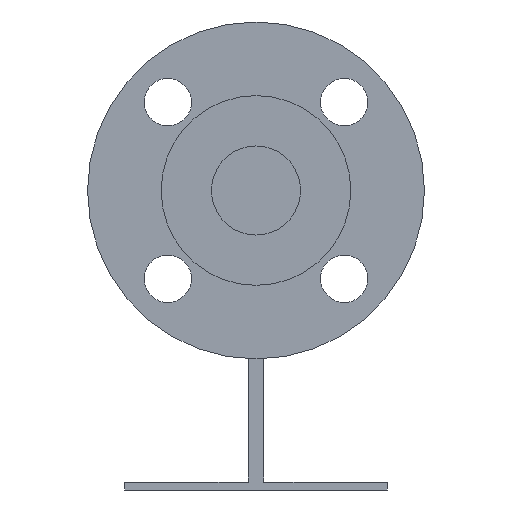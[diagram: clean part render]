
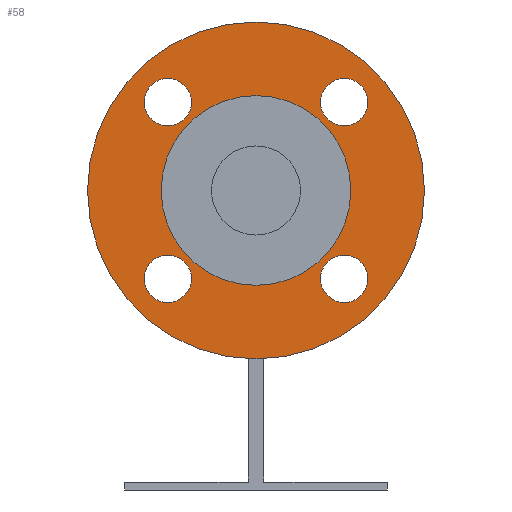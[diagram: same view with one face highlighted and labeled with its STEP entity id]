
A CAD part, left-side view. The second image highlights one B-rep face of the part: STEP entity #58.
In plain terms, the highlighted planar face has unit normal (-1, 0, 0).
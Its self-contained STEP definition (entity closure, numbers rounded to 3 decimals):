
#58=ADVANCED_FACE('',(#319,#320,#321,#322,#323,#324),#318,.F.);
#318=PLANE('',#1036);
#319=FACE_OUTER_BOUND('',#1037,.T.);
#320=FACE_BOUND('',#1038,.T.);
#321=FACE_BOUND('',#1039,.T.);
#322=FACE_BOUND('',#1040,.T.);
#323=FACE_BOUND('',#1041,.T.);
#324=FACE_BOUND('',#1042,.T.);
#1033=CARTESIAN_POINT('',(-337.,-126.913,77.5));
#1034=DIRECTION('',(1.,0.,0.));
#1035=DIRECTION('',(0.,0.,-1.));
#1036=AXIS2_PLACEMENT_3D('',#1033,#1034,#1035);
#1037=EDGE_LOOP('',(#1458,#1459));
#1038=EDGE_LOOP('',(#1460,#1461));
#1039=EDGE_LOOP('',(#1462,#1463));
#1040=EDGE_LOOP('',(#1464,#1465));
#1041=EDGE_LOOP('',(#1466,#1467));
#1042=EDGE_LOOP('',(#1468,#1469));
#1458=ORIENTED_EDGE('',*,*,#1823,.T.);
#1459=ORIENTED_EDGE('',*,*,#1824,.T.);
#1460=ORIENTED_EDGE('',*,*,#1825,.T.);
#1461=ORIENTED_EDGE('',*,*,#1826,.T.);
#1462=ORIENTED_EDGE('',*,*,#1827,.T.);
#1463=ORIENTED_EDGE('',*,*,#1828,.T.);
#1464=ORIENTED_EDGE('',*,*,#1829,.T.);
#1465=ORIENTED_EDGE('',*,*,#1830,.T.);
#1466=ORIENTED_EDGE('',*,*,#1831,.F.);
#1467=ORIENTED_EDGE('',*,*,#1832,.F.);
#1468=ORIENTED_EDGE('',*,*,#1833,.T.);
#1469=ORIENTED_EDGE('',*,*,#1834,.T.);
#1823=EDGE_CURVE('',#2565,#2566,#2567,.T.);
#1824=EDGE_CURVE('',#2566,#2565,#2573,.T.);
#1825=EDGE_CURVE('',#2579,#2580,#2581,.T.);
#1826=EDGE_CURVE('',#2580,#2579,#2587,.T.);
#1827=EDGE_CURVE('',#2593,#2594,#2595,.T.);
#1828=EDGE_CURVE('',#2594,#2593,#2601,.T.);
#1829=EDGE_CURVE('',#2607,#2608,#2609,.T.);
#1830=EDGE_CURVE('',#2608,#2607,#2615,.T.);
#1831=EDGE_CURVE('',#2621,#2622,#2623,.T.);
#1832=EDGE_CURVE('',#2622,#2621,#2629,.T.);
#1833=EDGE_CURVE('',#2635,#2636,#2637,.T.);
#1834=EDGE_CURVE('',#2636,#2635,#2643,.T.);
#2565=VERTEX_POINT('',#3637);
#2566=VERTEX_POINT('',#3638);
#2567=CIRCLE('',#3642,67.5);
#2573=CIRCLE('',#3646,67.5);
#2579=VERTEX_POINT('',#3647);
#2580=VERTEX_POINT('',#3648);
#2581=CIRCLE('',#3652,9.5);
#2587=CIRCLE('',#3656,9.5);
#2593=VERTEX_POINT('',#3657);
#2594=VERTEX_POINT('',#3658);
#2595=CIRCLE('',#3662,9.5);
#2601=CIRCLE('',#3666,9.5);
#2607=VERTEX_POINT('',#3667);
#2608=VERTEX_POINT('',#3668);
#2609=CIRCLE('',#3672,9.5);
#2615=CIRCLE('',#3676,9.5);
#2621=VERTEX_POINT('',#3677);
#2622=VERTEX_POINT('',#3678);
#2623=CIRCLE('',#3682,38.);
#2629=CIRCLE('',#3686,38.);
#2635=VERTEX_POINT('',#3687);
#2636=VERTEX_POINT('',#3688);
#2637=CIRCLE('',#3692,9.5);
#2643=CIRCLE('',#3696,9.5);
#3637=CARTESIAN_POINT('',(-337.,0.,67.5));
#3638=CARTESIAN_POINT('',(-337.,0.,-67.5));
#3639=CARTESIAN_POINT('',(-337.,0.,0.));
#3640=DIRECTION('',(-1.,0.,0.));
#3641=DIRECTION('',(0.,0.,1.));
#3642=AXIS2_PLACEMENT_3D('',#3639,#3640,#3641);
#3643=CARTESIAN_POINT('',(-337.,0.,0.));
#3644=DIRECTION('',(-1.,0.,0.));
#3645=DIRECTION('',(0.,0.,1.));
#3646=AXIS2_PLACEMENT_3D('',#3643,#3644,#3645);
#3647=CARTESIAN_POINT('',(-337.,-35.355,-25.855));
#3648=CARTESIAN_POINT('',(-337.,-35.355,-44.855));
#3649=CARTESIAN_POINT('',(-337.,-35.355,-35.355));
#3650=DIRECTION('',(1.,0.,0.));
#3651=DIRECTION('',(0.,0.,1.));
#3652=AXIS2_PLACEMENT_3D('',#3649,#3650,#3651);
#3653=CARTESIAN_POINT('',(-337.,-35.355,-35.355));
#3654=DIRECTION('',(1.,0.,0.));
#3655=DIRECTION('',(0.,0.,1.));
#3656=AXIS2_PLACEMENT_3D('',#3653,#3654,#3655);
#3657=CARTESIAN_POINT('',(-337.,35.355,-25.855));
#3658=CARTESIAN_POINT('',(-337.,35.355,-44.855));
#3659=CARTESIAN_POINT('',(-337.,35.355,-35.355));
#3660=DIRECTION('',(1.,0.,0.));
#3661=DIRECTION('',(0.,0.,1.));
#3662=AXIS2_PLACEMENT_3D('',#3659,#3660,#3661);
#3663=CARTESIAN_POINT('',(-337.,35.355,-35.355));
#3664=DIRECTION('',(1.,0.,0.));
#3665=DIRECTION('',(0.,0.,1.));
#3666=AXIS2_PLACEMENT_3D('',#3663,#3664,#3665);
#3667=CARTESIAN_POINT('',(-337.,35.355,44.855));
#3668=CARTESIAN_POINT('',(-337.,35.355,25.855));
#3669=CARTESIAN_POINT('',(-337.,35.355,35.355));
#3670=DIRECTION('',(1.,0.,0.));
#3671=DIRECTION('',(0.,0.,1.));
#3672=AXIS2_PLACEMENT_3D('',#3669,#3670,#3671);
#3673=CARTESIAN_POINT('',(-337.,35.355,35.355));
#3674=DIRECTION('',(1.,0.,0.));
#3675=DIRECTION('',(0.,0.,1.));
#3676=AXIS2_PLACEMENT_3D('',#3673,#3674,#3675);
#3677=CARTESIAN_POINT('',(-337.,0.,-38.));
#3678=CARTESIAN_POINT('',(-337.,0.,38.));
#3679=CARTESIAN_POINT('',(-337.,0.,0.));
#3680=DIRECTION('',(-1.,0.,0.));
#3681=DIRECTION('',(0.,0.,1.));
#3682=AXIS2_PLACEMENT_3D('',#3679,#3680,#3681);
#3683=CARTESIAN_POINT('',(-337.,0.,0.));
#3684=DIRECTION('',(-1.,0.,0.));
#3685=DIRECTION('',(0.,0.,1.));
#3686=AXIS2_PLACEMENT_3D('',#3683,#3684,#3685);
#3687=CARTESIAN_POINT('',(-337.,-35.355,44.855));
#3688=CARTESIAN_POINT('',(-337.,-35.355,25.855));
#3689=CARTESIAN_POINT('',(-337.,-35.355,35.355));
#3690=DIRECTION('',(1.,0.,0.));
#3691=DIRECTION('',(0.,0.,1.));
#3692=AXIS2_PLACEMENT_3D('',#3689,#3690,#3691);
#3693=CARTESIAN_POINT('',(-337.,-35.355,35.355));
#3694=DIRECTION('',(1.,0.,0.));
#3695=DIRECTION('',(0.,0.,1.));
#3696=AXIS2_PLACEMENT_3D('',#3693,#3694,#3695);
